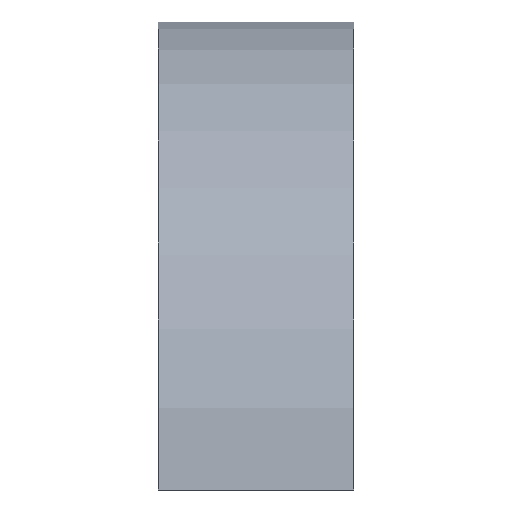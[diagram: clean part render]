
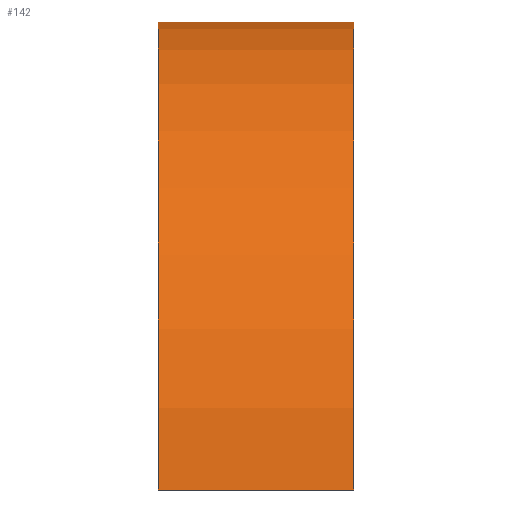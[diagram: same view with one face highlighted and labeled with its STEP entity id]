
A CAD part, left-side view. The second image highlights one B-rep face of the part: STEP entity #142.
In plain terms, the highlighted cylindrical face has radius 62.4 mm (diameter 124.8 mm), a partial arc.
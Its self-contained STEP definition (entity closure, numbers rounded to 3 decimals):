
#142=ADVANCED_FACE('',(#214),#180,.T.);
#180=CYLINDRICAL_SURFACE('',#899,62.4);
#214=FACE_OUTER_BOUND('',#250,.T.);
#250=EDGE_LOOP('',(#456,#457,#458,#459));
#312=LINE('',#1357,#352);
#313=LINE('',#1361,#353);
#352=VECTOR('',#1111,1.);
#353=VECTOR('',#1114,1.);
#456=ORIENTED_EDGE('',*,*,#728,.T.);
#457=ORIENTED_EDGE('',*,*,#729,.F.);
#458=ORIENTED_EDGE('',*,*,#730,.F.);
#459=ORIENTED_EDGE('',*,*,#731,.T.);
#640=VERTEX_POINT('',#1355);
#641=VERTEX_POINT('',#1356);
#642=VERTEX_POINT('',#1358);
#643=VERTEX_POINT('',#1360);
#728=EDGE_CURVE('',#640,#641,#804,.T.);
#729=EDGE_CURVE('',#642,#641,#312,.T.);
#730=EDGE_CURVE('',#643,#642,#805,.T.);
#731=EDGE_CURVE('',#643,#640,#313,.T.);
#804=CIRCLE('',#897,62.4);
#805=CIRCLE('',#898,62.4);
#897=AXIS2_PLACEMENT_3D('',#1354,#1109,#1110);
#898=AXIS2_PLACEMENT_3D('',#1359,#1112,#1113);
#899=AXIS2_PLACEMENT_3D('',#1362,#1115,#1116);
#1109=DIRECTION('',(0.,-1.,0.));
#1110=DIRECTION('',(1.,0.,0.));
#1111=DIRECTION('',(0.,1.,0.));
#1112=DIRECTION('',(0.,-1.,0.));
#1113=DIRECTION('',(1.,0.,0.));
#1114=DIRECTION('',(0.,1.,0.));
#1115=DIRECTION('',(0.,1.,0.));
#1116=DIRECTION('',(0.,0.,1.));
#1354=CARTESIAN_POINT('',(0.,-136.,0.));
#1355=CARTESIAN_POINT('',(62.382,-136.,1.5));
#1356=CARTESIAN_POINT('',(-62.382,-136.,1.5));
#1357=CARTESIAN_POINT('',(-62.382,-161.4,1.5));
#1358=CARTESIAN_POINT('',(-62.382,-161.4,1.5));
#1359=CARTESIAN_POINT('',(0.,-161.4,0.));
#1360=CARTESIAN_POINT('',(62.382,-161.4,1.5));
#1361=CARTESIAN_POINT('',(62.382,-161.4,1.5));
#1362=CARTESIAN_POINT('',(0.,-161.4,0.));
